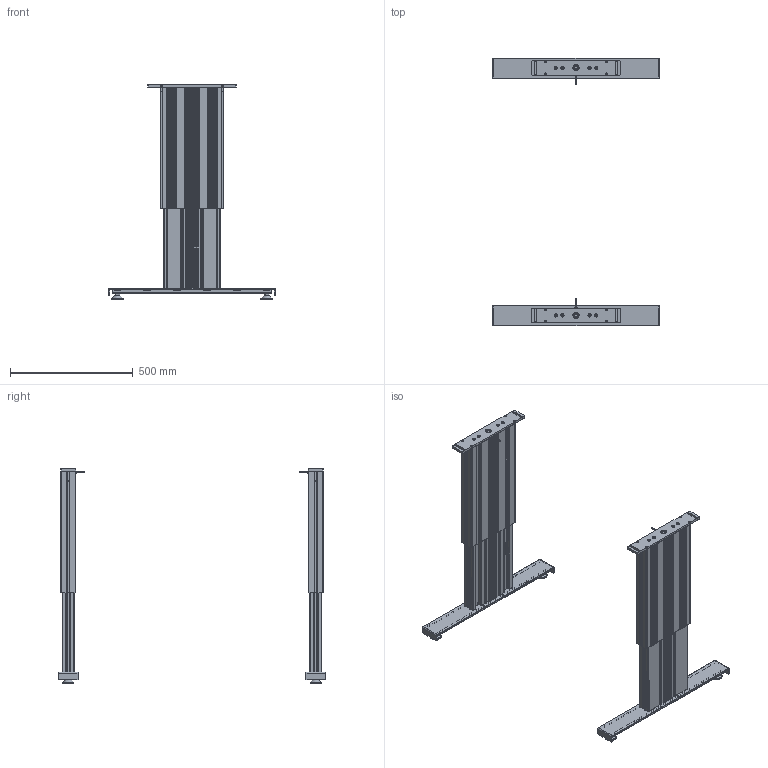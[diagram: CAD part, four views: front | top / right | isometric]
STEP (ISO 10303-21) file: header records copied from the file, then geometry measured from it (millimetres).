
FILE_DESCRIPTION(/* description */ ('Unknown'),/* implementation_level */ '2;1');
FILE_NAME(/* name */ '108.00301_01-Ausgefahren',/* time_stamp */ '2022-02-09T17:01:29+01:00',/* author */ ('Unknown'),/* organization */ ('Unknown'),/* preprocessor_version */ 'ST-DEVELOPER v18.1',/* originating_system */ 'Solid Edge',/* authorisation */ 'Unknown');
FILE_SCHEMA (('FEATURE_BASED_PROCESS_PLANNING','AUTOMOTIVE_DESIGN {1 0 10303 214 3 1 1}'));
Products named in the file (29): 108.00301; 306.00633_oa_0; 115.00068_oa_1; 119.00404; 119.00305; 142.00254; 113.00002_70mm; 124.00123; 142.00166; 107.00028_oa_2; 142.00021; 125.00021; 115.00007_oa_3; 125.00033; 126.00146; 142.00081; 142.00031; 306.00633_oa_4; 115.00068_oa_5; 107.00028_oa_6; 115.00007_oa_7; 127.00515; 127.00520; 127.00556; 127.00557; 127.00520_461_469_Kehlnaht 1_oa_8; 113.00006; 113.00006-ohne Mutter; Mutter M10
Assembly tree (52 placements, depth 4):
  108.00301
    306.00633_oa_0
      115.00068_oa_1
        119.00404
        119.00305
        142.00254  x2
      113.00002_70mm
      124.00123
      142.00166  x4
      107.00028_oa_2
        142.00021
        125.00021
        115.00007_oa_3
        125.00033
        113.00002_70mm
      126.00146
      142.00081
      142.00031
    306.00633_oa_4
      115.00068_oa_5
        119.00404
        119.00305
        142.00254  x2
      113.00002_70mm
      124.00123
      142.00166  x4
      107.00028_oa_6
        142.00021
        125.00021
        115.00007_oa_7
        125.00033
        113.00002_70mm
      126.00146
      142.00081
      142.00031
    127.00515  x2
      127.00520
        127.00556
        127.00557
        127.00520_461_469_Kehlnaht 1_oa_8
      113.00006
        113.00006-ohne Mutter
        Mutter M10
Bounding box: 680 x 1090 x 875 mm (x, y, z)
Volume: 6261070.3 mm3; surface area: 3753541 mm2
Topology: 70 solids, 70 shells, 4994 faces, 14226 edges, 9450 vertices
Faces by surface type: plane 2804, cylinder 2008, cone 108, torus 40, bspline 32, sphere 2
Full cylindrical faces by diameter (mm): 1.8 x4, 2.2 x4, 2.78 x2, 3.242 x8, 3.4 x2, 3.5 x2, 4 x8, 4.1 x2, 4.2 x2, 5 x10, 5.5 x8, 6 x2, 6.6 x8, 6.917 x4, 7 x4, 7.5 x16, 8 x6, 8.376 x10, 8.5 x8, 8.7 x8, 9 x2, 9.5 x4, 10 x6, 12.5 x2, 13 x12, 13.5 x2, 13.9 x4, 14 x16, 15 x4, 19 x4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
Entity records: 89156 total; most frequent: CARTESIAN_POINT 14800, ORIENTED_EDGE 13520, DIRECTION 13349, EDGE_CURVE 6760, VERTEX_POINT 4562, LINE 4465, VECTOR 4465, AXIS2_PLACEMENT_3D 4442
